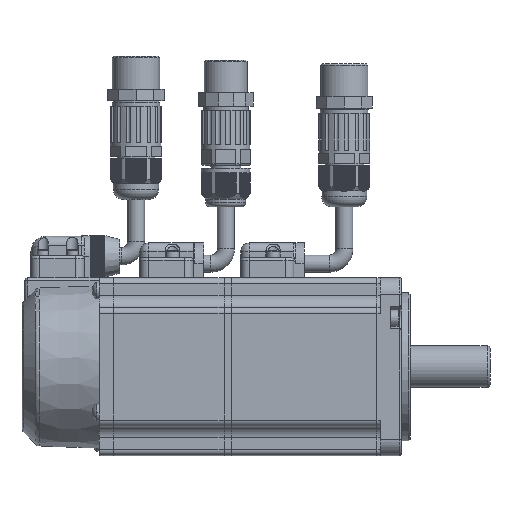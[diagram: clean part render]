
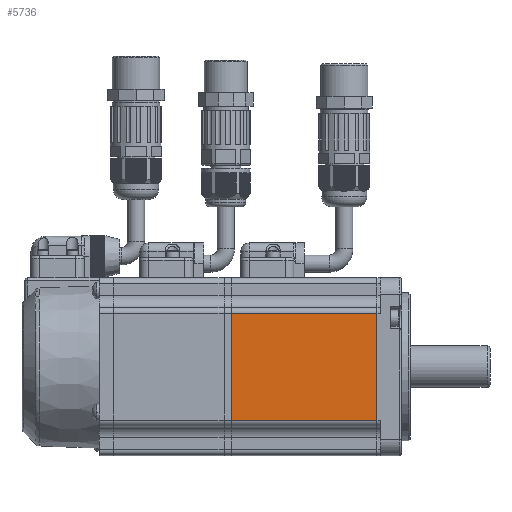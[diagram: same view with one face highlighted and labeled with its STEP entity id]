
A CAD part, left-side view. The second image highlights one B-rep face of the part: STEP entity #5736.
In plain terms, the highlighted planar face has unit normal (-1, 0, 0).
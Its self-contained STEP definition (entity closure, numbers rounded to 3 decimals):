
#5736=ADVANCED_FACE('',(#11209),#8997,.F.);
#8997=PLANE('',#58264);
#11209=FACE_OUTER_BOUND('',#14169,.T.);
#14169=EDGE_LOOP('',(#17822,#17823,#17824,#17825));
#17822=ORIENTED_EDGE('',*,*,#40222,.T.);
#17823=ORIENTED_EDGE('',*,*,#40223,.F.);
#17824=ORIENTED_EDGE('',*,*,#40224,.T.);
#17825=ORIENTED_EDGE('',*,*,#40207,.F.);
#34670=VERTEX_POINT('',#78174);
#34671=VERTEX_POINT('',#78176);
#34684=VERTEX_POINT('',#78205);
#34685=VERTEX_POINT('',#78207);
#40207=EDGE_CURVE('',#34670,#34671,#48631,.T.);
#40222=EDGE_CURVE('',#34670,#34684,#48638,.T.);
#40223=EDGE_CURVE('',#34685,#34684,#48639,.T.);
#40224=EDGE_CURVE('',#34685,#34671,#48640,.T.);
#48631=LINE('',#78175,#53442);
#48638=LINE('',#78204,#53449);
#48639=LINE('',#78206,#53450);
#48640=LINE('',#78208,#53451);
#53442=VECTOR('',#63301,1.);
#53449=VECTOR('',#63326,1.);
#53450=VECTOR('',#63327,1.);
#53451=VECTOR('',#63328,1.);
#58264=AXIS2_PLACEMENT_3D('',#78209,#63329,#63330);
#63301=DIRECTION('',(0.,0.,1.));
#63326=DIRECTION('',(0.,-1.,0.));
#63327=DIRECTION('',(0.,0.,-1.));
#63328=DIRECTION('',(0.,1.,0.));
#63329=DIRECTION('',(1.,0.,0.));
#63330=DIRECTION('',(0.,-1.,0.));
#78174=CARTESIAN_POINT('',(-115.303,144.291,-3.479));
#78175=CARTESIAN_POINT('',(-115.303,144.291,14.521));
#78176=CARTESIAN_POINT('',(-115.303,144.291,32.521));
#78204=CARTESIAN_POINT('',(-115.303,144.19,-3.479));
#78205=CARTESIAN_POINT('',(-115.303,95.19,-3.479));
#78206=CARTESIAN_POINT('',(-115.303,95.19,14.521));
#78207=CARTESIAN_POINT('',(-115.303,95.19,32.521));
#78208=CARTESIAN_POINT('',(-115.303,144.19,32.521));
#78209=CARTESIAN_POINT('',(-115.303,144.19,-15.479));
